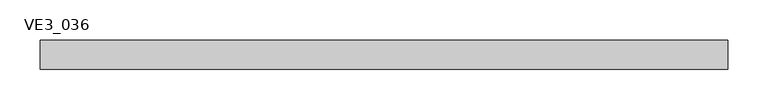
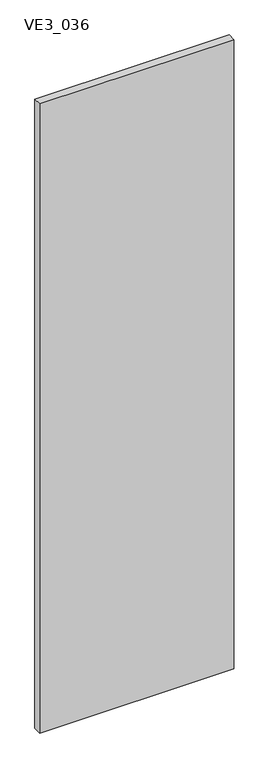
"""IFC4 building model written with IfcOpenShell, lengths in millimetres: plate geometry, TRP_CP_ARC_PF_RE_SE : VE3_036."""

from ifc_helpers import new_model, si_unit, frame, origin, place, context, project, spatial, polyline, outline, extrude, source, transform, mapped, element, save


def ve3_036_89044f45(model_context):
    return source(origin(), model_context, "Body", "SweptSolid", [
        extrude(outline(polyline([(428.0, 18.0), (428.0, -18.0), (-428.0, -18.0), (-428.0, 18.0), (428.0, 18.0)])), frame((0.0, 0.0, -3.1739529), z_axis=(0.0, 0.0, 1.0), x_axis=(1.0, 0.0, 0.0)), (0.0, 0.0, 1.0), 2933.1739529),
    ])


if __name__ == "__main__":
    model = new_model("IFC4")
    model_context = context("Model", 3, world=origin())
    ifc_project = project(units=[si_unit("LENGTHUNIT", "METRE", prefix="MILLI")], contexts=[model_context])
    site = spatial("IfcSite", under=ifc_project)
    building = spatial("IfcBuilding", under=site)
    placement = place(None, origin())
    ve3_036_shape = ve3_036_89044f45(model_context)
    element("IfcPlate", 1, ObjectType="TRP_CP_ARC_PF_RE_SE : VE3_036", at=placement, inside=building, context=model_context, shape_type="MappedRepresentation", body=[
        mapped(ve3_036_shape, transform((0.0, 0.0, 0.0), x_axis=(1.0, 0.0, 0.0), y_axis=(0.0, 1.0, 0.0), z_axis=(0.0, 0.0, 1.0))),
    ])
    save(model, "model.ifc")
